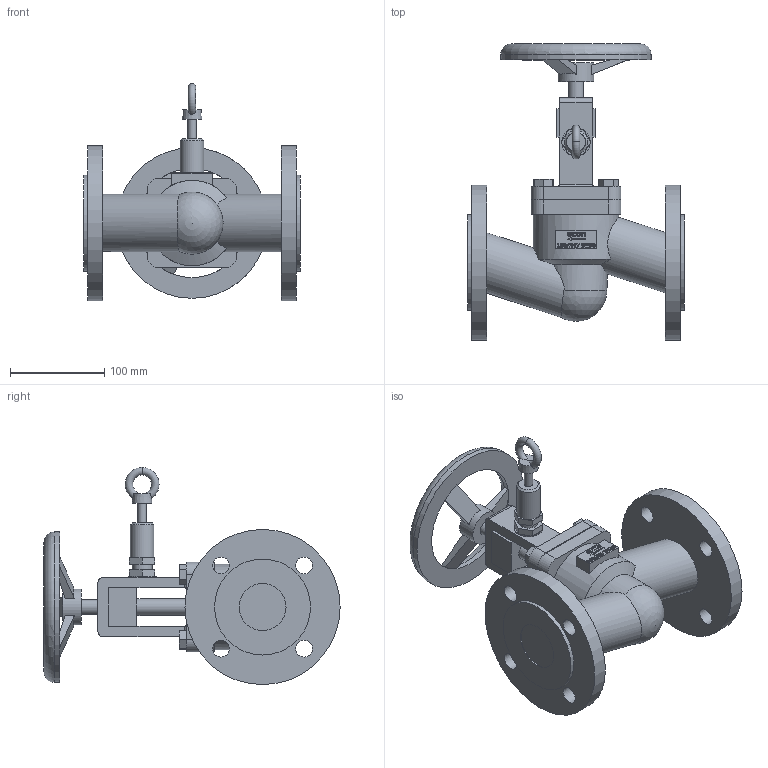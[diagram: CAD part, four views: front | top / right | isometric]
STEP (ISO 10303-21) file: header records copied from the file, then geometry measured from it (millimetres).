
FILE_DESCRIPTION(/* description */ (''),/* implementation_level */ '2;1');
FILE_NAME(/* name */ '100-247M-DN50-PN16.stp',/* time_stamp */ '2024-07-09T08:01:25+02:00',/* author */ ('roger.thijssen'),/* organization */ (''),/* preprocessor_version */ 'ST-DEVELOPER v20',/* originating_system */ 'Autodesk Inventor 2024',/* authorisation */ '');
FILE_SCHEMA (('AUTOMOTIVE_DESIGN { 1 0 10303 214 3 1 1 }'));
Length unit declared in the file: millimetre
Products named in the file (1): 100-247M-DN50-PN16
Bounding box: 230 x 315 x 231 mm (x, y, z)
Volume: 2245827.8 mm3; surface area: 257291.5 mm2
Topology: 1 solids, 1 shells, 381 faces, 992 edges, 652 vertices
Faces by surface type: plane 246, bspline 68, cylinder 59, cone 4, torus 3, sphere 1
Full cylindrical faces by diameter (mm): 9 x1, 16 x1, 18 x9, 21 x1, 25 x1, 30 x1, 38 x1, 50 x2, 61 x2, 75 x1, 91 x1, 102 x2, 116 x1, 160 x1, 165 x2
Entity records: 12922 total; most frequent: CARTESIAN_POINT 3397, ORIENTED_EDGE 1982, DIRECTION 1615, EDGE_CURVE 991, LINE 675, VECTOR 675, VERTEX_POINT 652, AXIS2_PLACEMENT_3D 470
